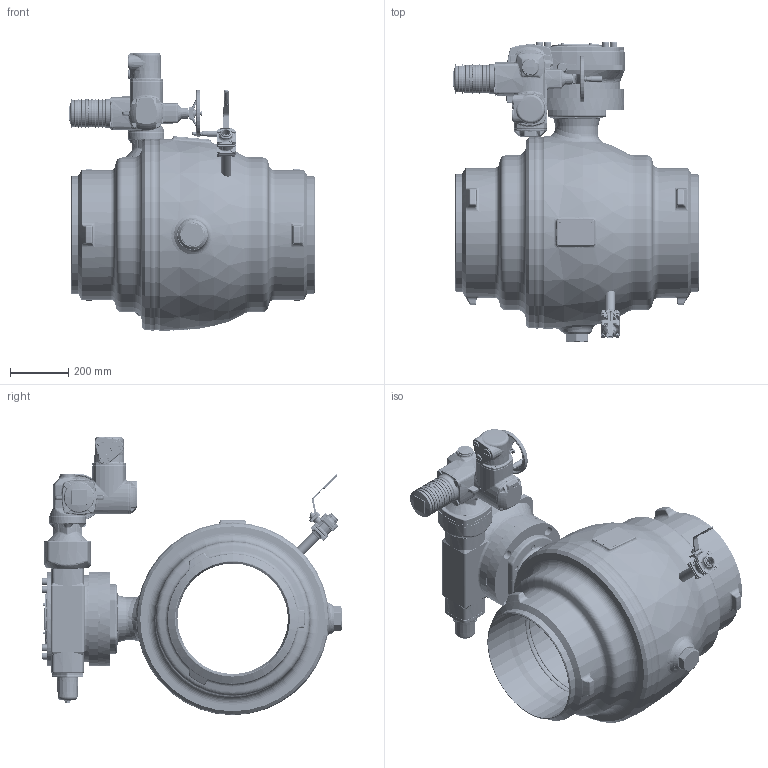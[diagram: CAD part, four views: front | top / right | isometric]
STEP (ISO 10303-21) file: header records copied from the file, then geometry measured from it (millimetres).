
FILE_DESCRIPTION((''),'2;1');
FILE_NAME('ASM0001_ASM','2026-01-28T10:58:30',('schwaba'),('KLINGER'),'CREO PARAMETRIC BY PTC INC, 2023014','CREO PARAMETRIC BY PTC INC, 2023014','');
FILE_SCHEMA(('CONFIG_CONTROL_DESIGN'));
Length unit declared in the file: millimetre
Products named in the file (4): KHSVI_400_FR_WE_ENTL; GS160_F25_F10_DN400; SA07_2-6_F10_STD; ASM0001_ASM
Assembly tree (3 placements, depth 2):
  ASM0001_ASM
    KHSVI_400_FR_WE_ENTL
    GS160_F25_F10_DN400
    SA07_2-6_F10_STD
Bounding box: 843.01 x 1030 x 957.78 mm (x, y, z)
Volume: 95929635.9 mm3; surface area: 7378348.9 mm2
Topology: 4 solids, 8 shells, 6121 faces, 14466 edges, 8501 vertices
Faces by surface type: plane 1498, cylinder 1442, bspline 1170, torus 1047, cone 804, sphere 74, extrusion 63, revolution 23
Entity records: 365990 total; most frequent: CARTESIAN_POINT 234871, ORIENTED_EDGE 28670, DIRECTION 25635, EDGE_CURVE 14335, AXIS2_PLACEMENT_3D 10803, VERTEX_POINT 8500, EDGE_LOOP 6475, FACE_OUTER_BOUND 6120
